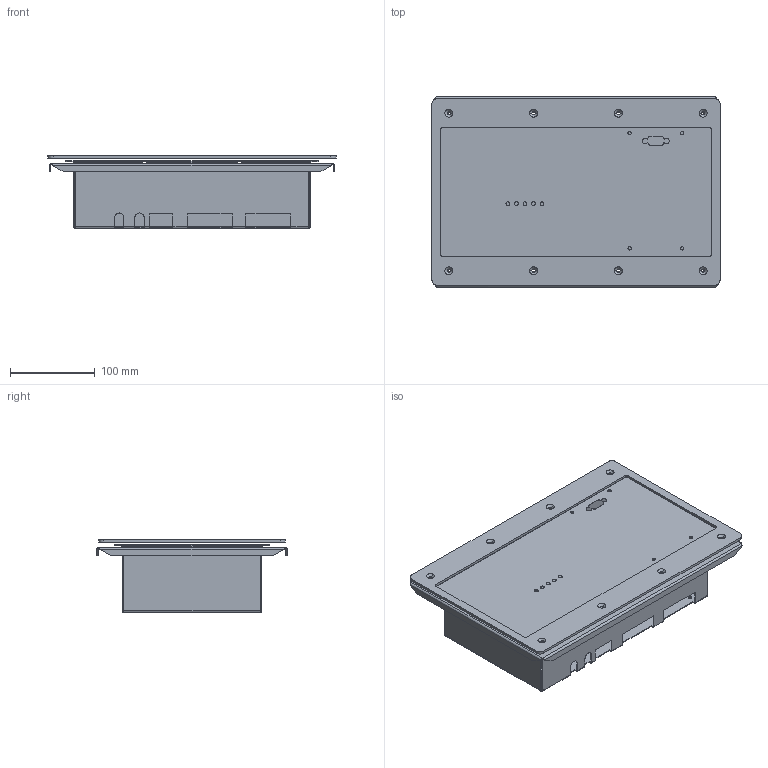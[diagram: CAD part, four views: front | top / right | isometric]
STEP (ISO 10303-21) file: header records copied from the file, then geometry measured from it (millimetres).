
FILE_DESCRIPTION (( 'STEP AP214' ), '1' );
FILE_NAME ('991-08093-00.STEP', '2018-08-09T20:25:01', ( 'wsmin' ), ( '' ), 'SwSTEP 2.0', 'SolidWorks 2017', '' );
FILE_SCHEMA (( 'AUTOMOTIVE_DESIGN' ));
Length unit declared in the file: millimetre
Products named in the file (1): 991-08093-00
Bounding box: 340 x 224.6 x 85.75 mm (x, y, z)
Volume: 248278.2 mm3; surface area: 451405.4 mm2
Topology: 4 solids, 4 shells, 351 faces, 903 edges, 546 vertices
Faces by surface type: plane 190, cylinder 137, cone 16, bspline 8
Entity records: 15041 total; most frequent: CARTESIAN_POINT 2305, DIRECTION 1849, ORIENTED_EDGE 1806, EDGE_CURVE 903, AXIS2_PLACEMENT_3D 618, LINE 613, VECTOR 613, VERTEX_POINT 546
